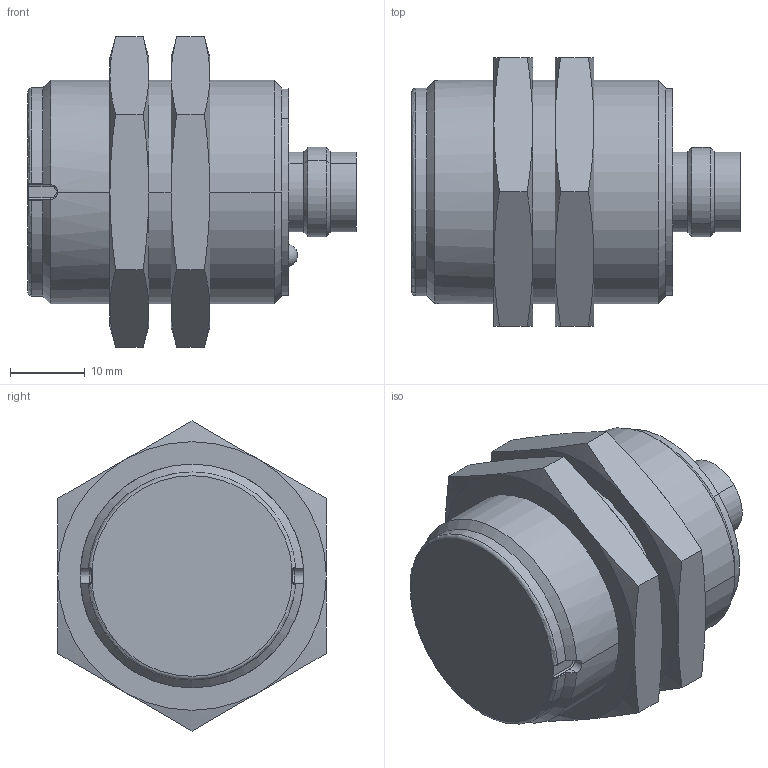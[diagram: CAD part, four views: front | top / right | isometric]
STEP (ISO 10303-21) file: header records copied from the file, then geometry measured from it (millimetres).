
FILE_DESCRIPTION((''),'2;1');
FILE_NAME('6490653406_SW0001','2025-01-08T13:12:55',('Rudolf.Poettker'),(''),'CREO PARAMETRIC BY PTC INC, 2022124','CREO PARAMETRIC BY PTC INC, 2022124','');
FILE_SCHEMA(('AUTOMOTIVE_DESIGN { 1 0 10303 214 1 1 1 1 }'));
Length unit declared in the file: millimetre
Products named in the file (1): 6490653406_SW0001
Bounding box: 44 x 36 x 41.57 mm (x, y, z)
Volume: 28964.2 mm3; surface area: 7127 mm2
Topology: 1 solids, 1 shells, 132 faces, 305 edges, 178 vertices
Faces by surface type: cylinder 42, cone 32, plane 31, sphere 11, torus 8, bspline 8
Entity records: 7328 total; most frequent: CARTESIAN_POINT 1904, DIRECTION 620, ORIENTED_EDGE 588, PRESENTATION_STYLE_ASSIGNMENT 431, STYLED_ITEM 299, CURVE_STYLE 298, EDGE_CURVE 294, AXIS2_PLACEMENT_3D 269
